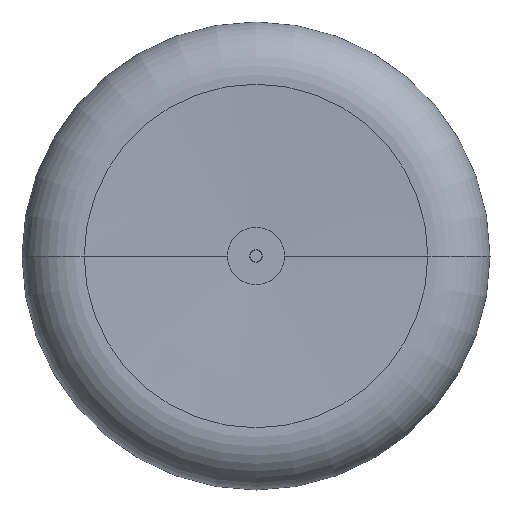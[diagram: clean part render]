
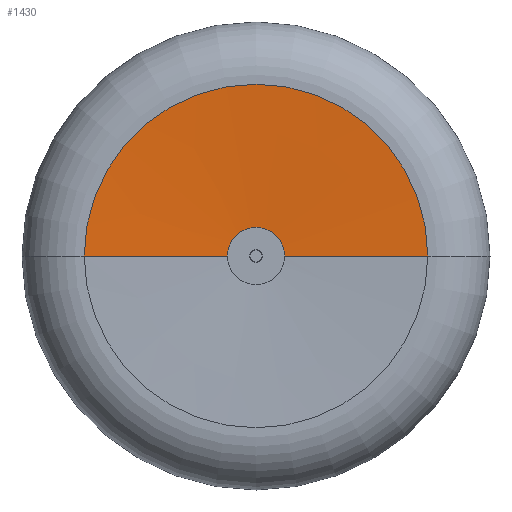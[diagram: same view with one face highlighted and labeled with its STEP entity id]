
A CAD part, front view. The second image highlights one B-rep face of the part: STEP entity #1430.
In plain terms, the highlighted conical face has half-angle 87.342 degrees and reference radius 271.661 mm.
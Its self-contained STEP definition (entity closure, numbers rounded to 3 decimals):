
#910=CARTESIAN_POINT('',(0.,-188.187,0.));
#920=DIRECTION('',(0.,1.,0.));
#930=DIRECTION('',(1.,0.,0.));
#940=AXIS2_PLACEMENT_3D('',#910,#920,#930);
#950=CIRCLE('',#940,45.185);
#960=CARTESIAN_POINT('',(45.185,-188.187,
0.));
#970=VERTEX_POINT('',#960);
#980=CARTESIAN_POINT('',(-45.185,-188.187,0.));
#990=VERTEX_POINT('',#980);
#1020=EDGE_CURVE('',#990,#970,#950,.T.);
#1120=CARTESIAN_POINT('',(0.,-198.702,0.));
#1130=DIRECTION('',(0.,-1.,0.));
#1140=DIRECTION('',(-1.,-0.,0.));
#1150=AXIS2_PLACEMENT_3D('',#1120,#1130,#1140);
#1160=CONICAL_SURFACE('',#1150,271.661,1.524);
#1170=CARTESIAN_POINT('',(271.661,-198.702,
0.));
#1180=DIRECTION('',(0.999,-0.046,
0.));
#1190=VECTOR('',#1180,271.953);
#1200=LINE('',#1170,#1190);
#1210=CARTESIAN_POINT('',(271.661,-198.702,0.));
#1220=VERTEX_POINT('',#1210);
#1230=EDGE_CURVE('',#970,#1220,#1200,.T.);
#1240=ORIENTED_EDGE('',*,*,#1230,.T.);
#1250=ORIENTED_EDGE('',*,*,#1020,.T.);
#1260=CARTESIAN_POINT('',(-271.661,-198.702,0.));
#1270=DIRECTION('',(-0.999,-0.046,0.));
#1280=VECTOR('',#1270,271.953);
#1290=LINE('',#1260,#1280);
#1300=CARTESIAN_POINT('',(-271.661,-198.702,0.));
#1310=VERTEX_POINT('',#1300);
#1320=EDGE_CURVE('',#990,#1310,#1290,.T.);
#1330=ORIENTED_EDGE('',*,*,#1320,.F.);
#1340=CARTESIAN_POINT('',(0.,-198.702,0.));
#1350=DIRECTION('',(0.,1.,0.));
#1360=DIRECTION('',(1.,0.,0.));
#1370=AXIS2_PLACEMENT_3D('',#1340,#1350,#1360);
#1380=CIRCLE('',#1370,271.661);
#1390=EDGE_CURVE('',#1310,#1220,#1380,.T.);
#1400=ORIENTED_EDGE('',*,*,#1390,.F.);
#1410=EDGE_LOOP('',(#1400,#1330,#1250,#1240));
#1420=FACE_OUTER_BOUND('',#1410,.T.);
#1430=ADVANCED_FACE('',(#1420),#1160,.F.);
